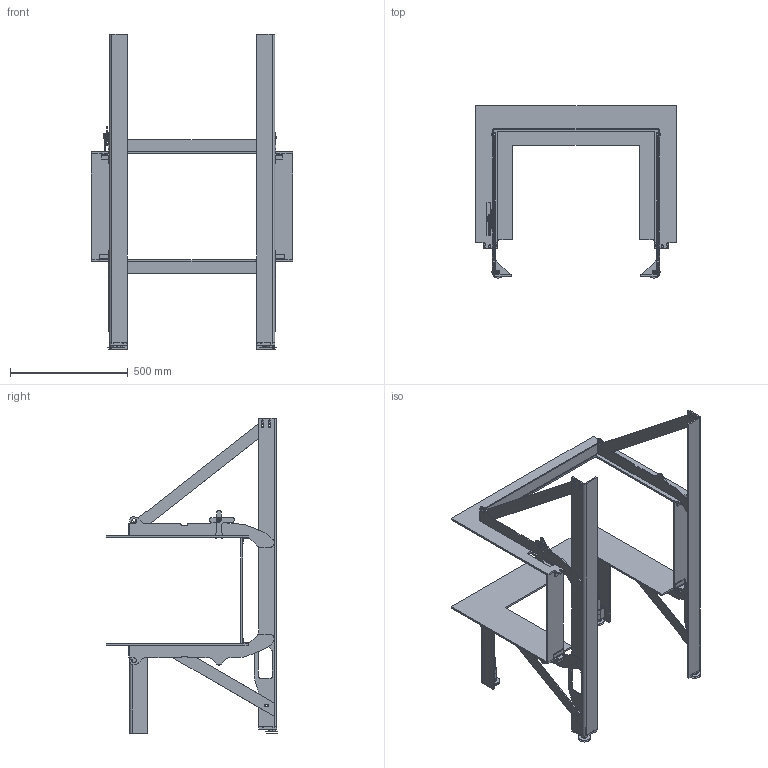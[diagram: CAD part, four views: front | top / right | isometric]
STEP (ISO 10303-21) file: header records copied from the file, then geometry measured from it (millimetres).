
FILE_DESCRIPTION(/* description */ (''),/* implementation_level */ '2;1');
FILE_NAME(/* name */ 'C:\ADSK_DM_WS\CAD_3D\03 Geraete\RIII 45x68x46\Zeichnungen\RIII 45x68x46 Einbaurahmen freistehend CAD Planung defriten 2018-01248 190919.stp',/* time_stamp */ '2019-09-19T11:28:39+02:00',/* author */ ('cpi'),/* organization */ (''),/* preprocessor_version */ 'ST-DEVELOPER v17.2',/* originating_system */ 'Autodesk Inventor 2019',/* authorisation */ '');
FILE_SCHEMA (('AUTOMOTIVE_DESIGN { 1 0 10303 214 3 1 1 }'));
Length unit declared in the file: millimetre
Products named in the file (1): 2019-02775
Bounding box: 855 x 731.43 x 1343.5 mm (x, y, z)
Volume: 8750781.2 mm3; surface area: 2838218.8 mm2
Topology: 5 solids, 5 shells, 1027 faces, 2925 edges, 1888 vertices
Faces by surface type: plane 555, cylinder 404, cone 68
Full cylindrical faces by diameter (mm): 10 x5, 10.21 x2, 10.4 x1, 10.5 x15, 16 x6, 17 x2, 20 x2, 25 x2, 30 x4
Entity records: 34936 total; most frequent: CARTESIAN_POINT 6555, ORIENTED_EDGE 5850, DIRECTION 5823, EDGE_CURVE 2925, AXIS2_PLACEMENT_3D 2040, VERTEX_POINT 1888, LINE 1743, VECTOR 1743
